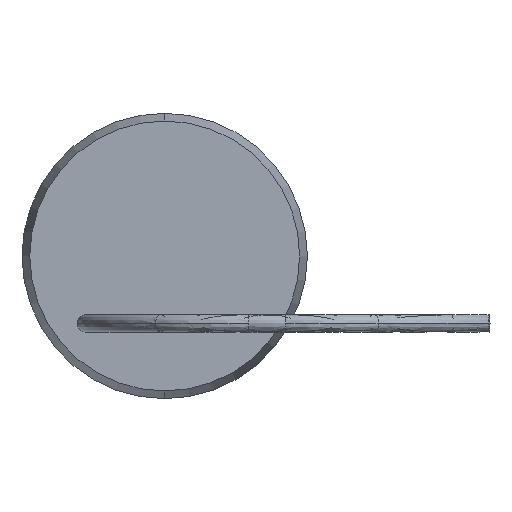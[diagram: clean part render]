
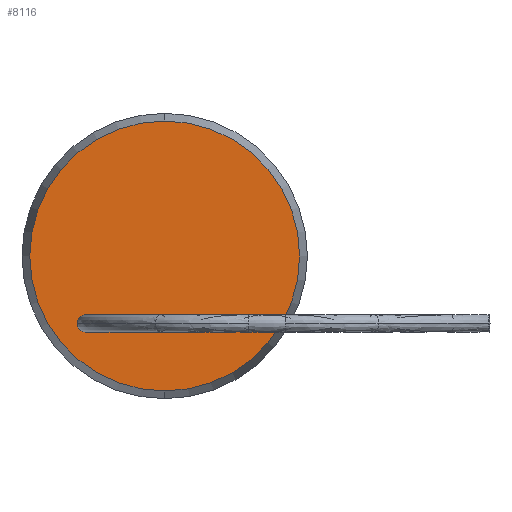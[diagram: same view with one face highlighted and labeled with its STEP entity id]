
A CAD part, left-side view. The second image highlights one B-rep face of the part: STEP entity #8116.
In plain terms, the highlighted planar face has unit normal (-1, 0, 0).
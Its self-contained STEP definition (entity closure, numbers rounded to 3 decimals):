
#6 = VERTEX_POINT ( 'NONE', #289 ) ;
#132 = ORIENTED_EDGE ( 'NONE', *, *, #7778, .F. ) ;
#179 = ORIENTED_EDGE ( 'NONE', *, *, #7748, .F. ) ;
#199 = EDGE_LOOP ( 'NONE', ( #247, #7108 ) ) ;
#247 = ORIENTED_EDGE ( 'NONE', *, *, #2839, .F. ) ;
#248 = VERTEX_POINT ( 'NONE', #1870 ) ;
#289 = CARTESIAN_POINT ( 'NONE',  ( 0., 0., 9.314 ) ) ;
#763 = EDGE_CURVE ( 'NONE', #7439, #7506, #2178, .T. ) ;
#1016 = CIRCLE ( 'NONE', #1017, 9.314 ) ;
#1017 = AXIS2_PLACEMENT_3D ( 'NONE', #1018, #1019, #1020 ) ;
#1018 = CARTESIAN_POINT ( 'NONE',  ( 0., 0., 0. ) ) ;
#1019 = DIRECTION ( 'NONE',  ( 1., 0., 0. ) ) ;
#1020 = DIRECTION ( 'NONE',  ( 0., 0., -1. ) ) ;
#1488 = CIRCLE ( 'NONE', #1489, 0.6 ) ;
#1489 = AXIS2_PLACEMENT_3D ( 'NONE', #1490, #1491, #1492 ) ;
#1490 = CARTESIAN_POINT ( 'NONE',  ( 0., -2.54, -4.65 ) ) ;
#1491 = DIRECTION ( 'NONE',  ( 1., 0., 0. ) ) ;
#1492 = DIRECTION ( 'NONE',  ( 0., 0., 1. ) ) ;
#1833 = CARTESIAN_POINT ( 'NONE',  ( 0., 2.54, -5.25 ) ) ;
#1870 = CARTESIAN_POINT ( 'NONE',  ( 0., 0., -9.314 ) ) ;
#2178 = CIRCLE ( 'NONE', #2179, 0.6 ) ;
#2179 = AXIS2_PLACEMENT_3D ( 'NONE', #2180, #2181, #2182 ) ;
#2180 = CARTESIAN_POINT ( 'NONE',  ( 0., 0., -4.65 ) ) ;
#2181 = DIRECTION ( 'NONE',  ( -1., 0., 0. ) ) ;
#2182 = DIRECTION ( 'NONE',  ( 0., 0., 1. ) ) ;
#2410 = CARTESIAN_POINT ( 'NONE',  ( 0., 0., -5.25 ) ) ;
#2461 = VERTEX_POINT ( 'NONE', #3724 ) ;
#2711 = CARTESIAN_POINT ( 'NONE',  ( 0., 0., -4.05 ) ) ;
#2839 = EDGE_CURVE ( 'NONE', #7506, #7439, #4098, .T. ) ;
#3248 = CARTESIAN_POINT ( 'NONE',  ( 0., -2.54, -4.05 ) ) ;
#3724 = CARTESIAN_POINT ( 'NONE',  ( 0., -2.54, -5.25 ) ) ;
#4098 = CIRCLE ( 'NONE', #4099, 0.6 ) ;
#4099 = AXIS2_PLACEMENT_3D ( 'NONE', #4100, #4101, #4102 ) ;
#4100 = CARTESIAN_POINT ( 'NONE',  ( 0., 0., -4.65 ) ) ;
#4101 = DIRECTION ( 'NONE',  ( -1., 0., 0. ) ) ;
#4102 = DIRECTION ( 'NONE',  ( 0., 0., 1. ) ) ;
#4387 = CIRCLE ( 'NONE', #4388, 9.314 ) ;
#4388 = AXIS2_PLACEMENT_3D ( 'NONE', #4389, #4390, #4391 ) ;
#4389 = CARTESIAN_POINT ( 'NONE',  ( 0., 0., 0. ) ) ;
#4390 = DIRECTION ( 'NONE',  ( 1., 0., 0. ) ) ;
#4391 = DIRECTION ( 'NONE',  ( 0., 0., -1. ) ) ;
#4580 = CIRCLE ( 'NONE', #4581, 0.6 ) ;
#4581 = AXIS2_PLACEMENT_3D ( 'NONE', #4582, #4583, #4584 ) ;
#4582 = CARTESIAN_POINT ( 'NONE',  ( 0., 2.54, -4.65 ) ) ;
#4583 = DIRECTION ( 'NONE',  ( -1., 0., 0. ) ) ;
#4584 = DIRECTION ( 'NONE',  ( 0., 0., 1. ) ) ;
#4613 = VERTEX_POINT ( 'NONE', #5256 ) ;
#4734 = CIRCLE ( 'NONE', #4735, 0.6 ) ;
#4735 = AXIS2_PLACEMENT_3D ( 'NONE', #4736, #4740, #4741 ) ;
#4736 = CARTESIAN_POINT ( 'NONE',  ( 0., 2.54, -4.65 ) ) ;
#4740 = DIRECTION ( 'NONE',  ( -1., 0., 0. ) ) ;
#4741 = DIRECTION ( 'NONE',  ( 0., 0., 1. ) ) ;
#4939 = ORIENTED_EDGE ( 'NONE', *, *, #8062, .T. ) ;
#5142 = EDGE_LOOP ( 'NONE', ( #5588, #6249 ) ) ;
#5256 = CARTESIAN_POINT ( 'NONE',  ( 0., 2.54, -4.05 ) ) ;
#5588 = ORIENTED_EDGE ( 'NONE', *, *, #7111, .F. ) ;
#6147 = CIRCLE ( 'NONE', #6148, 0.6 ) ;
#6148 = AXIS2_PLACEMENT_3D ( 'NONE', #6155, #6156, #6157 ) ;
#6155 = CARTESIAN_POINT ( 'NONE',  ( 0., -2.54, -4.65 ) ) ;
#6156 = DIRECTION ( 'NONE',  ( 1., 0., 0. ) ) ;
#6157 = DIRECTION ( 'NONE',  ( 0., 0., 1. ) ) ;
#6249 = ORIENTED_EDGE ( 'NONE', *, *, #7711, .F. ) ;
#6425 = FACE_BOUND ( 'NONE', #8154, .T. ) ;
#6426 = FACE_BOUND ( 'NONE', #199, .T. ) ;
#6427 = FACE_BOUND ( 'NONE', #7128, .T. ) ;
#6428 = FACE_OUTER_BOUND ( 'NONE', #5142, .T. ) ;
#6431 = PLANE ( 'NONE',  #6432 ) ;
#6432 = AXIS2_PLACEMENT_3D ( 'NONE', #6433, #6434, #6435 ) ;
#6433 = CARTESIAN_POINT ( 'NONE',  ( 0., 9.687, 9.687 ) ) ;
#6434 = DIRECTION ( 'NONE',  ( 1., 0., 0. ) ) ;
#6435 = DIRECTION ( 'NONE',  ( 0., -1., 0. ) ) ;
#7108 = ORIENTED_EDGE ( 'NONE', *, *, #763, .F. ) ;
#7111 = EDGE_CURVE ( 'NONE', #248, #6, #1016, .T. ) ;
#7128 = EDGE_LOOP ( 'NONE', ( #7187, #4939 ) ) ;
#7187 = ORIENTED_EDGE ( 'NONE', *, *, #7232, .T. ) ;
#7232 = EDGE_CURVE ( 'NONE', #7570, #2461, #1488, .T. ) ;
#7332 = VERTEX_POINT ( 'NONE', #1833 ) ;
#7439 = VERTEX_POINT ( 'NONE', #2410 ) ;
#7506 = VERTEX_POINT ( 'NONE', #2711 ) ;
#7570 = VERTEX_POINT ( 'NONE', #3248 ) ;
#7711 = EDGE_CURVE ( 'NONE', #6, #248, #4387, .T. ) ;
#7748 = EDGE_CURVE ( 'NONE', #7332, #4613, #4580, .T. ) ;
#7778 = EDGE_CURVE ( 'NONE', #4613, #7332, #4734, .T. ) ;
#8062 = EDGE_CURVE ( 'NONE', #2461, #7570, #6147, .T. ) ;
#8116 = ADVANCED_FACE ( 'NONE', ( #6425, #6426, #6427, #6428 ), #6431, .F. ) ;
#8154 = EDGE_LOOP ( 'NONE', ( #132, #179 ) ) ;
